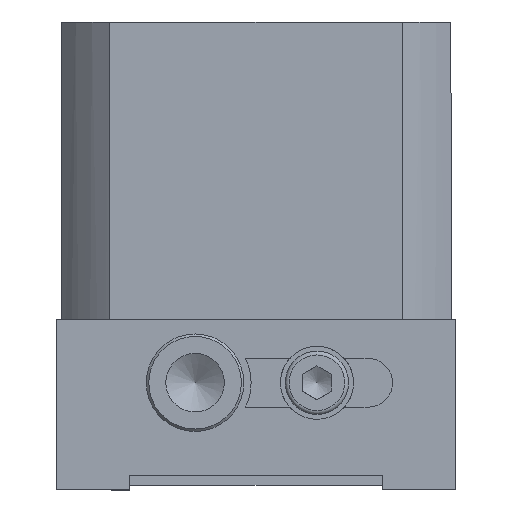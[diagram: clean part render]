
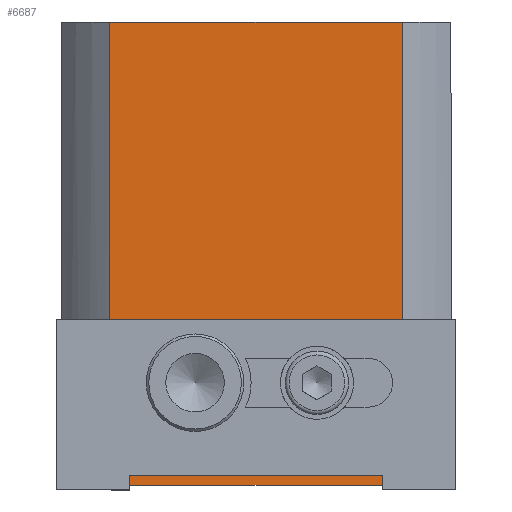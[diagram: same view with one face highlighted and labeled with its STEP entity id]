
A CAD part, left-side view. The second image highlights one B-rep face of the part: STEP entity #6687.
In plain terms, the highlighted planar face has unit normal (-1, 0, 0).
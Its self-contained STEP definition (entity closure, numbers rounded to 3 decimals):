
#4818=CARTESIAN_POINT('',(-40.,10.,-95.0));
#4819=VERTEX_POINT('',#4818);
#4827=CARTESIAN_POINT('',(-40.,70.,-95.0));
#4828=VERTEX_POINT('',#4827);
#4829=CARTESIAN_POINT('',(-40.0,70.,-95.0));
#4830=DIRECTION('',(0.0,-1.0,0.0));
#4831=VECTOR('',#4830,60.);
#4832=LINE('',#4829,#4831);
#4833=EDGE_CURVE('',#4828,#4819,#4832,.T.);
#5666=CARTESIAN_POINT('',(-40.,70.,0.0));
#5667=VERTEX_POINT('',#5666);
#5675=CARTESIAN_POINT('',(-40.,10.,0.0));
#5676=VERTEX_POINT('',#5675);
#5677=CARTESIAN_POINT('',(-40.0,70.,0.0));
#5678=DIRECTION('',(0.0,-1.0,0.0));
#5679=VECTOR('',#5678,60.);
#5680=LINE('',#5677,#5679);
#5681=EDGE_CURVE('',#5667,#5676,#5680,.T.);
#6541=CARTESIAN_POINT('',(-40.,10.,0.0));
#6542=DIRECTION('',(0.0,0.0,-1.0));
#6543=VECTOR('',#6542,95.0);
#6544=LINE('',#6541,#6543);
#6545=EDGE_CURVE('',#5676,#4819,#6544,.T.);
#6641=CARTESIAN_POINT('',(-40.,70.,0.0));
#6642=DIRECTION('',(0.0,0.0,-1.0));
#6643=VECTOR('',#6642,95.0);
#6644=LINE('',#6641,#6643);
#6645=EDGE_CURVE('',#5667,#4828,#6644,.T.);
#6654=CARTESIAN_POINT('',(-40.,70.,0.0));
#6655=DIRECTION('',(-1.0,0.0,0.0));
#6656=DIRECTION('',(0.0,0.0,1.0));
#6657=AXIS2_PLACEMENT_3D('',#6654,#6655,#6656);
#6658=PLANE('',#6657);
#6659=ORIENTED_EDGE('',*,*,#6545,.F.);
#6660=ORIENTED_EDGE('',*,*,#5681,.F.);
#6661=ORIENTED_EDGE('',*,*,#6645,.T.);
#6662=ORIENTED_EDGE('',*,*,#4833,.T.);
#6663=EDGE_LOOP('',(#6659,#6660,#6661,#6662));
#6664=FACE_OUTER_BOUND('',#6663,.T.);
#6665=CARTESIAN_POINT('',(-40.,62.5,-74.));
#6666=VERTEX_POINT('',#6665);
#6667=CARTESIAN_POINT('',(-40.,52.5,-74.));
#6668=DIRECTION('',(-1.0,0.0,0.0));
#6669=DIRECTION('',(0.0,1.0,0.0));
#6670=AXIS2_PLACEMENT_3D('',#6667,#6668,#6669);
#6671=CIRCLE('',#6670,10.0);
#6672=EDGE_CURVE('',#6666,#6666,#6671,.T.);
#6673=ORIENTED_EDGE('',*,*,#6672,.F.);
#6674=EDGE_LOOP('',(#6673));
#6675=FACE_BOUND('',#6674,.T.);
#6676=CARTESIAN_POINT('',(-40.,37.5,-74.));
#6677=VERTEX_POINT('',#6676);
#6678=CARTESIAN_POINT('',(-40.,27.5,-74.));
#6679=DIRECTION('',(-1.0,0.0,0.0));
#6680=DIRECTION('',(0.0,-1.0,0.0));
#6681=AXIS2_PLACEMENT_3D('',#6678,#6679,#6680);
#6682=CIRCLE('',#6681,10.0);
#6683=EDGE_CURVE('',#6677,#6677,#6682,.T.);
#6684=ORIENTED_EDGE('',*,*,#6683,.F.);
#6685=EDGE_LOOP('',(#6684));
#6686=FACE_BOUND('',#6685,.T.);
#6687=ADVANCED_FACE('',(#6664,#6675,#6686),#6658,.T.);
